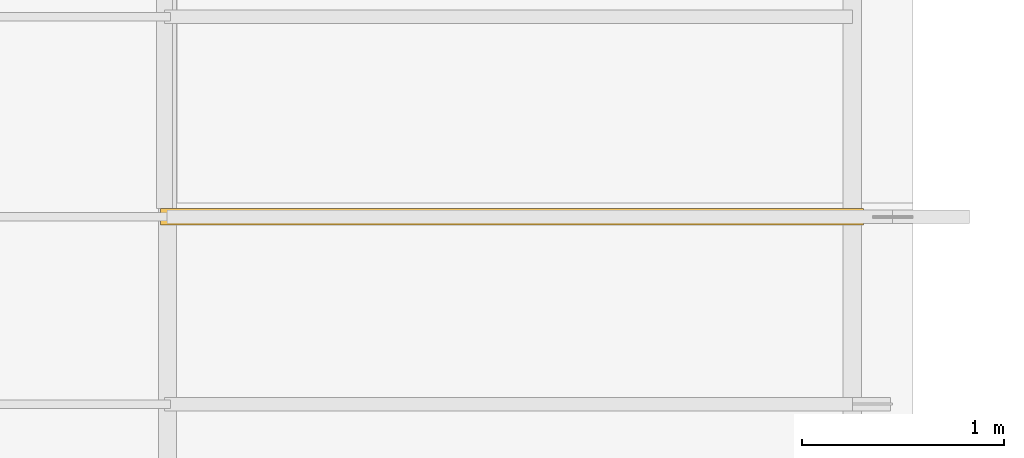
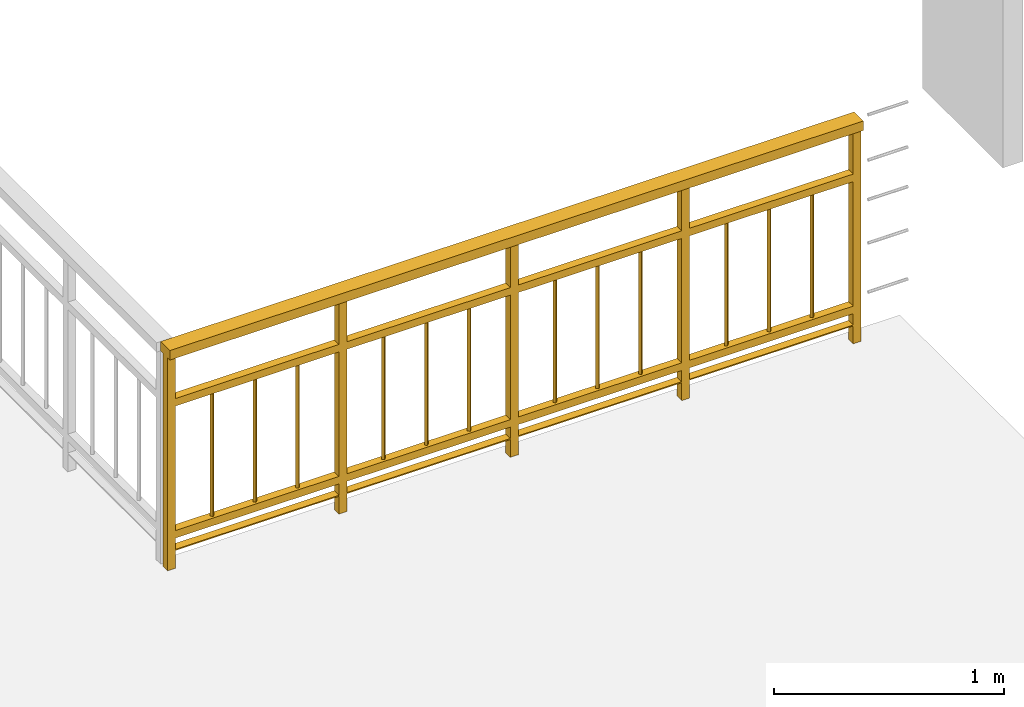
# One storey, part 27 of 33: 1 railing.
"""IFC2X3 building model written with IfcOpenShell, lengths in metres."""

from ifc_helpers import new_model, entity, si_unit, converted_unit, derived_unit, direction, frame, origin, place, context, subcontext, project, spatial, faceted_brep, element, save


model = new_model("IFC2X3")

# Units and contexts
model_context = context("Model", 3, precision=1e-05, world=origin(), true_north=direction((6.12303176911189e-17, 1.0)))
body_context = subcontext(model_context, "Body", "Model", "MODEL_VIEW")
ifc_project = project(units=[si_unit("LENGTHUNIT", "METRE"), si_unit("AREAUNIT", "SQUARE_METRE"), si_unit("VOLUMEUNIT", "CUBIC_METRE"), converted_unit("PLANEANGLEUNIT", "DEGREE", entity("IfcRatioMeasure", 0.0174532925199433), si_unit("PLANEANGLEUNIT", "RADIAN"), dimensions=[0, 0, 0, 0, 0, 0, 0]), si_unit("MASSUNIT", "GRAM", prefix="KILO"), derived_unit("MASSDENSITYUNIT", [(si_unit("MASSUNIT", "GRAM", prefix="KILO"), 1), (si_unit("LENGTHUNIT", "METRE"), -3)]), derived_unit("MOMENTOFINERTIAUNIT", [(si_unit("LENGTHUNIT", "METRE"), 4)]), si_unit("TIMEUNIT", "SECOND"), si_unit("FREQUENCYUNIT", "HERTZ"), si_unit("THERMODYNAMICTEMPERATUREUNIT", "DEGREE_CELSIUS"), derived_unit("THERMALTRANSMITTANCEUNIT", [(si_unit("MASSUNIT", "GRAM", prefix="KILO"), 1), (si_unit("THERMODYNAMICTEMPERATUREUNIT", "KELVIN"), -1), (si_unit("TIMEUNIT", "SECOND"), -3)]), derived_unit("VOLUMETRICFLOWRATEUNIT", [(si_unit("LENGTHUNIT", "METRE"), 3), (si_unit("TIMEUNIT", "SECOND"), -1)]), si_unit("ELECTRICCURRENTUNIT", "AMPERE"), si_unit("ELECTRICVOLTAGEUNIT", "VOLT"), si_unit("POWERUNIT", "WATT"), si_unit("FORCEUNIT", "NEWTON", prefix="KILO"), si_unit("ILLUMINANCEUNIT", "LUX"), si_unit("LUMINOUSFLUXUNIT", "LUMEN"), si_unit("LUMINOUSINTENSITYUNIT", "CANDELA"), derived_unit("USERDEFINED", [(si_unit("MASSUNIT", "GRAM", prefix="KILO"), -1), (si_unit("LENGTHUNIT", "METRE"), -2), (si_unit("TIMEUNIT", "SECOND"), 3), (si_unit("LUMINOUSFLUXUNIT", "LUMEN"), 1)]), derived_unit("LINEARVELOCITYUNIT", [(si_unit("LENGTHUNIT", "METRE"), 1), (si_unit("TIMEUNIT", "SECOND"), -1)]), si_unit("PRESSUREUNIT", "PASCAL"), derived_unit("USERDEFINED", [(si_unit("LENGTHUNIT", "METRE"), -2), (si_unit("MASSUNIT", "GRAM", prefix="KILO"), 1), (si_unit("TIMEUNIT", "SECOND"), -2)]), derived_unit("LINEARFORCEUNIT", [(si_unit("MASSUNIT", "GRAM", prefix="KILO"), 1), (si_unit("LENGTHUNIT", "METRE"), 1), (si_unit("TIMEUNIT", "SECOND"), -2), (si_unit("LENGTHUNIT", "METRE"), -1)]), derived_unit("PLANARFORCEUNIT", [(si_unit("MASSUNIT", "GRAM", prefix="KILO"), 1), (si_unit("LENGTHUNIT", "METRE"), 1), (si_unit("TIMEUNIT", "SECOND"), -2), (si_unit("LENGTHUNIT", "METRE"), -2)])], contexts=[model_context])

# Site, building, storey
site_placement = place(None, origin())
site = spatial("IfcSite", under=ifc_project, at=site_placement, Name="Superficie", CompositionType="ELEMENT")
building_placement = place(site_placement, origin())
building = spatial("IfcBuilding", under=site, at=building_placement, Name="Telegestiones", CompositionType="ELEMENT")
storey_placement = place(building_placement, frame((0.0, 0.0, 4.94)))
storey = spatial("IfcBuildingStorey", under=building, at=storey_placement, Name="Nivel 1_NPT", CompositionType="ELEMENT", Elevation=4.94)

# Railing
railing_placement = place(storey_placement, frame((11.2408126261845, 1.44459406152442, 0.0)))
element("IfcRailing", 1, at=railing_placement, inside=storey, Name="Barandilla:ARQ-BA-IN-118-Hi-Ba3", ObjectType="Barandilla:ARQ-BA-IN-118-Hi-Ba3", PredefinedType="NOTDEFINED", context=body_context, shape_type="Brep", body=[
    faceted_brep([(3.24421726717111, 0.0300000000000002, 0.2), (3.25421726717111, 0.0399999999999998, 0.2), (3.25421726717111, 0.0399999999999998, 0.859999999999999), (3.24421726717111, 0.0300000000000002, 0.859999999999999), (3.24421726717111, 0.05, 0.2), (3.24421726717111, 0.05, 0.859999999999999), (3.23421726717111, 0.0400000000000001, 0.2), (3.23421726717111, 0.0400000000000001, 0.859999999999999)], [[[0, 1, 2, 3]], [[2, 1, 4, 5]], [[5, 4, 6, 7]], [[7, 6, 0, 3]], [[3, 2, 5, 7]], [[0, 6, 4, 1]]]),
    faceted_brep([(3.0292694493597, 0.0300000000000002, 0.2), (3.0392694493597, 0.0399999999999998, 0.2), (3.0392694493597, 0.0399999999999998, 0.859999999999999), (3.0292694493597, 0.0300000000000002, 0.859999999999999), (3.0292694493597, 0.05, 0.2), (3.0292694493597, 0.05, 0.859999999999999), (3.0192694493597, 0.0400000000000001, 0.2), (3.0192694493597, 0.0400000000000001, 0.859999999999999)], [[[0, 1, 2, 3]], [[2, 1, 4, 5]], [[5, 4, 6, 7]], [[7, 6, 0, 3]], [[3, 2, 5, 7]], [[0, 6, 4, 1]]]),
    faceted_brep([(2.8143216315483, 0.0300000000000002, 0.2), (2.8243216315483, 0.0399999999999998, 0.2), (2.8243216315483, 0.0399999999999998, 0.859999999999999), (2.8143216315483, 0.0300000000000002, 0.859999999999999), (2.8143216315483, 0.05, 0.2), (2.8143216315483, 0.05, 0.859999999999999), (2.8043216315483, 0.0400000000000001, 0.2), (2.8043216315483, 0.0400000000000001, 0.859999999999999)], [[[0, 1, 2, 3]], [[2, 1, 4, 5]], [[5, 4, 6, 7]], [[7, 6, 0, 3]], [[3, 2, 5, 7]], [[0, 6, 4, 1]]]),
    faceted_brep([(2.57937381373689, 0.0600000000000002, 1.13), (2.57937381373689, 0.0600000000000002, 0.0), (2.57937381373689, 0.0200000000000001, 0.0), (2.57937381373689, 0.0200000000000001, 1.13), (2.61937381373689, 0.0200000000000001, 0.0), (2.61937381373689, 0.0200000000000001, 1.13), (2.61937381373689, 0.0600000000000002, 0.0), (2.61937381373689, 0.0600000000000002, 1.13)], [[[0, 1, 2, 3]], [[3, 2, 4, 5]], [[5, 4, 6, 7]], [[1, 0, 7, 6]], [[0, 3, 5, 7]], [[2, 1, 6, 4]]]),
    faceted_brep([(2.38442599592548, 0.0300000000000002, 0.2), (2.39442599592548, 0.0399999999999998, 0.2), (2.39442599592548, 0.0399999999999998, 0.859999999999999), (2.38442599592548, 0.0300000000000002, 0.859999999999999), (2.38442599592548, 0.05, 0.2), (2.38442599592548, 0.05, 0.859999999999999), (2.37442599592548, 0.0400000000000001, 0.2), (2.37442599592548, 0.0400000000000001, 0.859999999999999)], [[[0, 1, 2, 3]], [[2, 1, 4, 5]], [[5, 4, 6, 7]], [[7, 6, 0, 3]], [[3, 2, 5, 7]], [[0, 6, 4, 1]]]),
    faceted_brep([(2.16947817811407, 0.0300000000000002, 0.2), (2.17947817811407, 0.0399999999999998, 0.2), (2.17947817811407, 0.0399999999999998, 0.859999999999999), (2.16947817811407, 0.0300000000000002, 0.859999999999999), (2.16947817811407, 0.05, 0.2), (2.16947817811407, 0.05, 0.859999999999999), (2.15947817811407, 0.0400000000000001, 0.2), (2.15947817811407, 0.0400000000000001, 0.859999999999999)], [[[0, 1, 2, 3]], [[2, 1, 4, 5]], [[5, 4, 6, 7]], [[7, 6, 0, 3]], [[3, 2, 5, 7]], [[0, 6, 4, 1]]]),
    faceted_brep([(1.95453036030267, 0.0300000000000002, 0.2), (1.96453036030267, 0.0399999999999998, 0.2), (1.96453036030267, 0.0399999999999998, 0.859999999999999), (1.95453036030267, 0.0300000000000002, 0.859999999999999), (1.95453036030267, 0.05, 0.2), (1.95453036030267, 0.05, 0.859999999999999), (1.94453036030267, 0.0400000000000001, 0.2), (1.94453036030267, 0.0400000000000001, 0.859999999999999)], [[[0, 1, 2, 3]], [[2, 1, 4, 5]], [[5, 4, 6, 7]], [[7, 6, 0, 3]], [[3, 2, 5, 7]], [[0, 6, 4, 1]]]),
    faceted_brep([(1.71958254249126, 0.0600000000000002, 1.13), (1.71958254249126, 0.0600000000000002, 0.0), (1.71958254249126, 0.0200000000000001, 0.0), (1.71958254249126, 0.0200000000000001, 1.13), (1.75958254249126, 0.0200000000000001, 0.0), (1.75958254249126, 0.0200000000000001, 1.13), (1.75958254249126, 0.0600000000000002, 0.0), (1.75958254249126, 0.0600000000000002, 1.13)], [[[0, 1, 2, 3]], [[3, 2, 4, 5]], [[5, 4, 6, 7]], [[1, 0, 7, 6]], [[0, 3, 5, 7]], [[2, 1, 6, 4]]]),
    faceted_brep([(1.52463472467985, 0.0300000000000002, 0.2), (1.53463472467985, 0.0399999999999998, 0.2), (1.53463472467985, 0.0399999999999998, 0.859999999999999), (1.52463472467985, 0.0300000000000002, 0.859999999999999), (1.52463472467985, 0.05, 0.2), (1.52463472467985, 0.05, 0.859999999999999), (1.51463472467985, 0.0400000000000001, 0.2), (1.51463472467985, 0.0400000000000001, 0.859999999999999)], [[[0, 1, 2, 3]], [[2, 1, 4, 5]], [[5, 4, 6, 7]], [[7, 6, 0, 3]], [[3, 2, 5, 7]], [[0, 6, 4, 1]]]),
    faceted_brep([(1.30968690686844, 0.0300000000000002, 0.2), (1.31968690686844, 0.0399999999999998, 0.2), (1.31968690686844, 0.0399999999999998, 0.859999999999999), (1.30968690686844, 0.0300000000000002, 0.859999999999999), (1.30968690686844, 0.05, 0.2), (1.30968690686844, 0.05, 0.859999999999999), (1.29968690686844, 0.0400000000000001, 0.2), (1.29968690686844, 0.0400000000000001, 0.859999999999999)], [[[0, 1, 2, 3]], [[2, 1, 4, 5]], [[5, 4, 6, 7]], [[7, 6, 0, 3]], [[3, 2, 5, 7]], [[0, 6, 4, 1]]]),
    faceted_brep([(1.09473908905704, 0.0300000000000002, 0.2), (1.10473908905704, 0.0399999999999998, 0.2), (1.10473908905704, 0.0399999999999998, 0.859999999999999), (1.09473908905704, 0.0300000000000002, 0.859999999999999), (1.09473908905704, 0.05, 0.2), (1.09473908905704, 0.05, 0.859999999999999), (1.08473908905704, 0.0400000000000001, 0.2), (1.08473908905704, 0.0400000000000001, 0.859999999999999)], [[[0, 1, 2, 3]], [[2, 1, 4, 5]], [[5, 4, 6, 7]], [[7, 6, 0, 3]], [[3, 2, 5, 7]], [[0, 6, 4, 1]]]),
    faceted_brep([(0.85979127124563, 0.0600000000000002, 1.13), (0.85979127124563, 0.0600000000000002, 0.0), (0.85979127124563, 0.0200000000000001, 0.0), (0.85979127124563, 0.0200000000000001, 1.13), (0.899791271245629, 0.0200000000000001, 0.0), (0.899791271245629, 0.0200000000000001, 1.13), (0.899791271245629, 0.0600000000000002, 0.0), (0.899791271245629, 0.0600000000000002, 1.13)], [[[0, 1, 2, 3]], [[3, 2, 4, 5]], [[5, 4, 6, 7]], [[1, 0, 7, 6]], [[0, 3, 5, 7]], [[2, 1, 6, 4]]]),
    faceted_brep([(0.664843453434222, 0.0300000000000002, 0.2), (0.674843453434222, 0.0399999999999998, 0.2), (0.674843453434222, 0.0399999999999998, 0.859999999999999), (0.664843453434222, 0.0300000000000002, 0.859999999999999), (0.664843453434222, 0.05, 0.2), (0.664843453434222, 0.05, 0.859999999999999), (0.654843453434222, 0.0400000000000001, 0.2), (0.654843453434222, 0.0400000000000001, 0.859999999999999)], [[[0, 1, 2, 3]], [[2, 1, 4, 5]], [[5, 4, 6, 7]], [[7, 6, 0, 3]], [[3, 2, 5, 7]], [[0, 6, 4, 1]]]),
    faceted_brep([(0.449895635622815, 0.0300000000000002, 0.2), (0.459895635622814, 0.0399999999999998, 0.2), (0.459895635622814, 0.0399999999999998, 0.859999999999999), (0.449895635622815, 0.0300000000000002, 0.859999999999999), (0.449895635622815, 0.05, 0.2), (0.449895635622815, 0.05, 0.859999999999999), (0.439895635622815, 0.0400000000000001, 0.2), (0.439895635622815, 0.0400000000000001, 0.859999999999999)], [[[0, 1, 2, 3]], [[2, 1, 4, 5]], [[5, 4, 6, 7]], [[7, 6, 0, 3]], [[3, 2, 5, 7]], [[0, 6, 4, 1]]]),
    faceted_brep([(0.234947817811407, 0.0300000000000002, 0.2), (0.244947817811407, 0.0399999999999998, 0.2), (0.244947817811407, 0.0399999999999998, 0.859999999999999), (0.234947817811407, 0.0300000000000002, 0.859999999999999), (0.234947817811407, 0.05, 0.2), (0.234947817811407, 0.05, 0.859999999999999), (0.224947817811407, 0.0400000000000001, 0.2), (0.224947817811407, 0.0400000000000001, 0.859999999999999)], [[[0, 1, 2, 3]], [[2, 1, 4, 5]], [[5, 4, 6, 7]], [[7, 6, 0, 3]], [[3, 2, 5, 7]], [[0, 6, 4, 1]]]),
    faceted_brep([(3.43916508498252, 0.0600000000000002, 1.13), (3.43916508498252, 0.0600000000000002, 0.0), (3.43916508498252, 0.0200000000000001, 0.0), (3.43916508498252, 0.0200000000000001, 1.13), (3.47916508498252, 0.0200000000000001, 0.0), (3.47916508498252, 0.0200000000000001, 1.13), (3.47916508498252, 0.0600000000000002, 0.0), (3.47916508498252, 0.0600000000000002, 1.13)], [[[0, 1, 2, 3]], [[3, 2, 4, 5]], [[5, 4, 6, 7]], [[1, 0, 7, 6]], [[0, 3, 5, 7]], [[2, 1, 6, 4]]]),
    faceted_brep([(0.0, 0.0600000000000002, 1.13), (0.0, 0.0600000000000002, 0.0), (0.0, 0.0200000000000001, 0.0), (0.0, 0.0200000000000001, 1.13), (0.0399999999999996, 0.0200000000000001, 0.0), (0.0399999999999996, 0.0200000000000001, 1.13), (0.0399999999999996, 0.0600000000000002, 0.0), (0.0399999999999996, 0.0600000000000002, 1.13)], [[[0, 1, 2, 3]], [[3, 2, 4, 5]], [[5, 4, 6, 7]], [[1, 0, 7, 6]], [[0, 3, 5, 7]], [[2, 1, 6, 4]]]),
    faceted_brep([(0.0199999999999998, 0.0200000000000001, 0.9), (0.0199999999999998, 0.0600000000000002, 0.9), (0.0199999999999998, 0.0600000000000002, 0.860000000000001), (0.0199999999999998, 0.0200000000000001, 0.860000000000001), (3.45916508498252, 0.0200000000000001, 0.9), (3.45916508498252, 0.0200000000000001, 0.860000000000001), (3.45916508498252, 0.0600000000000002, 0.860000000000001), (3.45916508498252, 0.0600000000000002, 0.9)], [[[0, 1, 2, 3]], [[4, 5, 6, 7]], [[1, 0, 4, 7]], [[2, 1, 7, 6]], [[3, 2, 6, 5]], [[0, 3, 5, 4]]]),
    faceted_brep([(0.0199999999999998, 0.0200000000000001, 0.2), (0.0199999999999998, 0.0600000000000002, 0.2), (0.0199999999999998, 0.0600000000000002, 0.16), (0.0199999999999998, 0.0200000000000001, 0.16), (3.45916508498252, 0.0200000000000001, 0.2), (3.45916508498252, 0.0200000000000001, 0.16), (3.45916508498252, 0.0600000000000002, 0.16), (3.45916508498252, 0.0600000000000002, 0.2)], [[[0, 1, 2, 3]], [[4, 5, 6, 7]], [[1, 0, 4, 7]], [[2, 1, 7, 6]], [[3, 2, 6, 5]], [[0, 3, 5, 4]]]),
    faceted_brep([(0.0199999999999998, 0.0200000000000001, 0.1), (0.0199999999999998, 0.0600000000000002, 0.1), (0.0199999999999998, 0.0600000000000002, 0.0940000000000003), (0.0199999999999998, 0.0200000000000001, 0.0940000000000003), (3.45916508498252, 0.0200000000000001, 0.1), (3.45916508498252, 0.0200000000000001, 0.0940000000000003), (3.45916508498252, 0.0600000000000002, 0.0940000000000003), (3.45916508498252, 0.0600000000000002, 0.1)], [[[0, 1, 2, 3]], [[4, 5, 6, 7]], [[2, 1, 7, 6]], [[1, 0, 4, 7]], [[3, 2, 6, 5]], [[0, 3, 5, 4]]]),
    faceted_brep([(0.0199999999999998, 0.0800000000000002, 1.13), (0.0199999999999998, 0.0800000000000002, 1.18), (3.45916508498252, 0.0800000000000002, 1.18), (3.45916508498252, 0.0800000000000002, 1.13), (0.0199999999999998, 0.0, 1.13), (3.45916508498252, 0.0, 1.13), (0.0199999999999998, 0.0, 1.18), (3.45916508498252, 0.0, 1.18), (3.47916508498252, 0.0799999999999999, 1.18), (3.47916508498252, 0.0, 1.18), (3.47916508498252, 0.0, 1.13), (3.47916508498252, 0.0800000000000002, 1.13), (0.0, 0.0800000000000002, 1.18), (0.0, 0.0800000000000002, 1.13), (0.0, 0.0, 1.13), (0.0, 0.0, 1.18)], [[[0, 1, 2, 3]], [[4, 0, 3, 5]], [[6, 4, 5, 7]], [[1, 6, 7, 2]], [[8, 9, 10, 11]], [[3, 2, 8, 11]], [[5, 3, 11, 10]], [[7, 5, 10, 9]], [[2, 7, 9, 8]], [[12, 13, 14, 15]], [[13, 12, 1, 0]], [[14, 13, 0, 4]], [[15, 14, 4, 6]], [[12, 15, 6, 1]]]),
])

save(model, "model.ifc")
